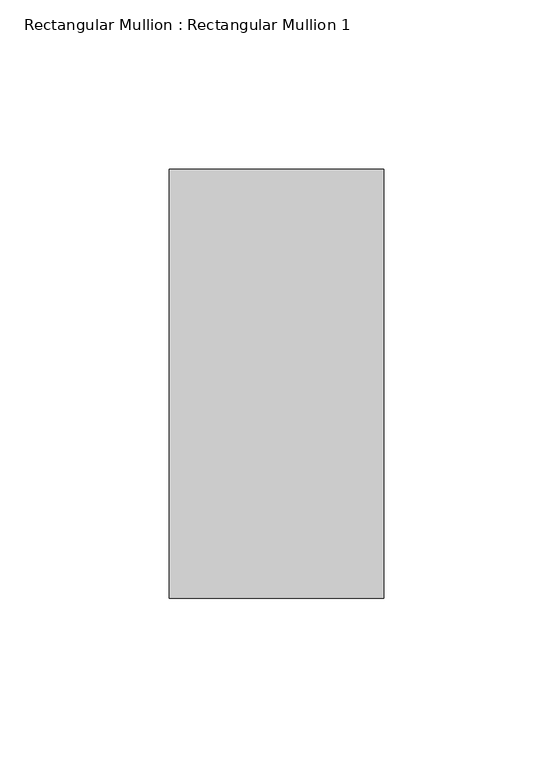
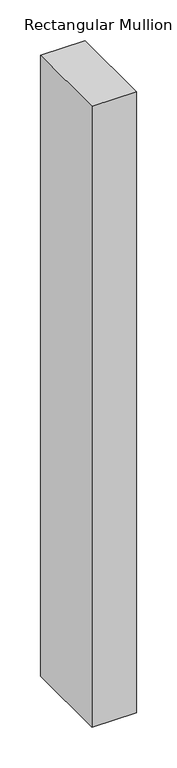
"""IFC4 building model written with IfcOpenShell, lengths in millimetres: member geometry, Rectangular Mullion : Rectangular Mullion 1."""

from ifc_helpers import new_model, si_unit, frame, origin, place, context, project, spatial, polyline, outline, extrude, source, transform, mapped, element, save


def rectangular_mullion_rectangular_mullion_1_8e31e22d(model_context):
    return source(origin(), model_context, "Body", "SweptSolid", [
        extrude(outline(polyline([(31.75, 63.5), (31.75, -63.5), (-31.75, -63.5), (-31.75, 63.5), (31.75, 63.5)])), frame((0.0, 0.0, -934.6757062), z_axis=(0.0, 0.0, 1.0), x_axis=(1.0, 0.0, 0.0)), (0.0, 0.0, 1.0), 934.6757062),
    ])


if __name__ == "__main__":
    model = new_model("IFC4")
    model_context = context("Model", 3, world=origin())
    ifc_project = project(units=[si_unit("LENGTHUNIT", "METRE", prefix="MILLI")], contexts=[model_context])
    site = spatial("IfcSite", under=ifc_project)
    building = spatial("IfcBuilding", under=site)
    placement = place(None, origin())
    rectangular_mullion_rectangular_mullion_1_shape = rectangular_mullion_rectangular_mullion_1_8e31e22d(model_context)
    element("IfcMember", 1, ObjectType="Rectangular Mullion : Rectangular Mullion 1", at=placement, inside=building, context=model_context, shape_type="MappedRepresentation", body=[
        mapped(rectangular_mullion_rectangular_mullion_1_shape, transform((0.0, 0.0, 0.0), x_axis=(1.0, 0.0, 0.0), y_axis=(0.0, 1.0, 0.0), z_axis=(0.0, 0.0, 1.0))),
    ])
    save(model, "model.ifc")
